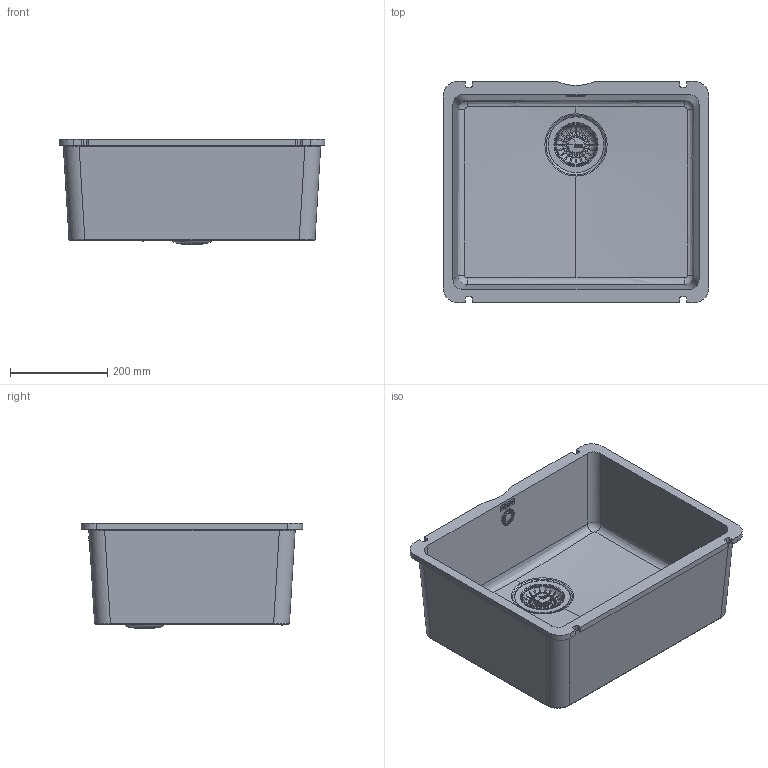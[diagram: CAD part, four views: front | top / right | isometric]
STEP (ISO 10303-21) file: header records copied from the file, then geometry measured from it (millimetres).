
FILE_DESCRIPTION(/* description */ (''),/* implementation_level */ '2;1');
FILE_NAME(/* name */ '3D001_Sinks_KubusX_KXK_110-51',/* time_stamp */ '2026-07-08T17:00:41+02:00',/* author */ (''),/* organization */ (''),/* preprocessor_version */ 'ST-DEVELOPER v19.2',/* originating_system */ 'Rhino 8.31',/* authorisation */ '');
FILE_SCHEMA (('CONFIG_CONTROL_DESIGN'));
Length unit declared in the file: millimetre
Products named in the file (2): Document; Blocco 03
Bounding box: 545 x 454 x 217.29 mm (x, y, z)
Surface area: 1212457.5 mm2
Topology: 6 solids, 14 shells, 1587 faces, 4268 edges, 2631 vertices
Faces by surface type: plane 656, bspline 611, cylinder 320
Full cylindrical faces by diameter (mm): 4 x1, 8 x1, 11 x1, 12.6 x1, 13.743 x1, 25 x1, 31 x1, 32 x1, 36 x1, 47 x1, 84 x1, 90 x1
Entity records: 86309 total; most frequent: CARTESIAN_POINT 51342, ORIENTED_EDGE 8403, DIRECTION 4810, EDGE_CURVE 4214, AXIS2_PLACEMENT_3D 2893, VERTEX_POINT 2629, B_SPLINE_CURVE_WITH_KNOTS 2059, CIRCLE 1911
